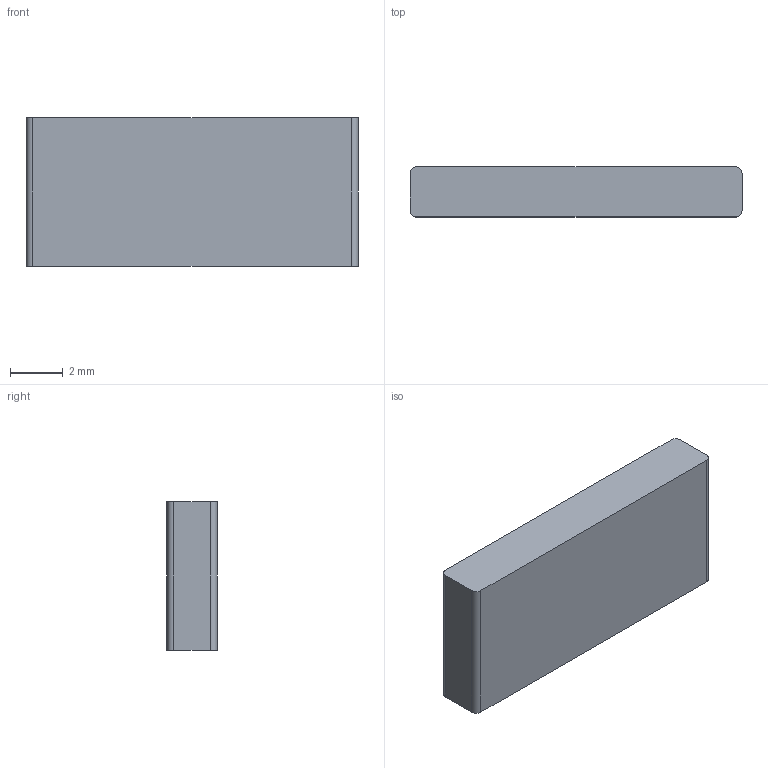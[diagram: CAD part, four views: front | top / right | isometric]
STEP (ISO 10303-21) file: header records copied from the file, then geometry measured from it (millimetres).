
FILE_DESCRIPTION(('Open CASCADE Model'),'2;1');
FILE_NAME('Open CASCADE Shape Model','2026-09-15T14:09:33',('Author'),( 'Open CASCADE'),'Open CASCADE STEP processor 7.7','Open CASCADE 7.7' ,'Unknown');
FILE_SCHEMA(('AUTOMOTIVE_DESIGN { 1 0 10303 214 1 1 1 1 }'));
Length unit declared in the file: millimetre
Products named in the file (1): Open CASCADE STEP translator 7.7 1
Bounding box: 12.6 x 1.9 x 5.65 mm (x, y, z)
Volume: 135 mm3; surface area: 209.2 mm2
Topology: 1 solids, 1 shells, 10 faces, 24 edges, 16 vertices
Faces by surface type: plane 6, cylinder 4
Entity records: 630 total; most frequent: CARTESIAN_POINT 123, DIRECTION 98, LINE 56, VECTOR 56, ORIENTED_EDGE 48, PCURVE 48, DEFINITIONAL_REPRESENTATION 48, EDGE_CURVE 24
